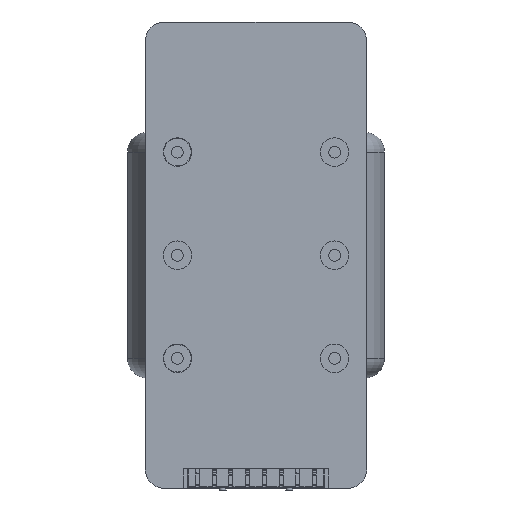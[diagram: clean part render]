
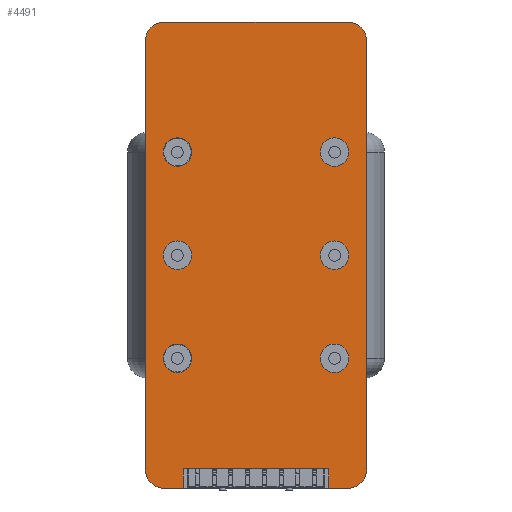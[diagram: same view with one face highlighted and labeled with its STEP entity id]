
A CAD part, front view. The second image highlights one B-rep face of the part: STEP entity #4491.
In plain terms, the highlighted planar face has unit normal (0, -1, 0) by its records, which use the part's own axes.
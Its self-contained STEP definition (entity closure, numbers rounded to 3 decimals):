
#4491=ADVANCED_FACE('',(#9636,#9638,#9640,#9642,#9644,#9646,#9648),#9650,.T.);
#9636=FACE_BOUND('',#9637,.T.);
#9637=EDGE_LOOP('',(#14314,#14315,#14316,#14317,#14318,#14319,#14320,#14321,#14322,
#14323,#14324,#14325));
#9638=FACE_BOUND('',#9639,.T.);
#9639=EDGE_LOOP('',(#14326));
#9640=FACE_BOUND('',#9641,.T.);
#9641=EDGE_LOOP('',(#14327));
#9642=FACE_BOUND('',#9643,.T.);
#9643=EDGE_LOOP('',(#14328));
#9644=FACE_BOUND('',#9645,.T.);
#9645=EDGE_LOOP('',(#14329));
#9646=FACE_BOUND('',#9647,.T.);
#9647=EDGE_LOOP('',(#14330));
#9648=FACE_BOUND('',#9649,.T.);
#9649=EDGE_LOOP('',(#14331));
#9650=PLANE('',#9651);
#9651=AXIS2_PLACEMENT_3D('',#9652,#9653,#9654);
#9652=CARTESIAN_POINT('',(-74.,0.,0.));
#9653=DIRECTION('',(0.,-1.,0.));
#9654=DIRECTION('',(1.,0.,0.));
#14314=ORIENTED_EDGE('',*,*,#16505,.F.);
#14315=ORIENTED_EDGE('',*,*,#16474,.T.);
#14316=ORIENTED_EDGE('',*,*,#16506,.T.);
#14317=ORIENTED_EDGE('',*,*,#16507,.T.);
#14318=ORIENTED_EDGE('',*,*,#16508,.T.);
#14319=ORIENTED_EDGE('',*,*,#16470,.F.);
#14320=ORIENTED_EDGE('',*,*,#16504,.F.);
#14321=ORIENTED_EDGE('',*,*,#16509,.F.);
#14322=ORIENTED_EDGE('',*,*,#16510,.F.);
#14323=ORIENTED_EDGE('',*,*,#16511,.T.);
#14324=ORIENTED_EDGE('',*,*,#16512,.F.);
#14325=ORIENTED_EDGE('',*,*,#16513,.T.);
#14326=ORIENTED_EDGE('',*,*,#16514,.T.);
#14327=ORIENTED_EDGE('',*,*,#16515,.T.);
#14328=ORIENTED_EDGE('',*,*,#16516,.T.);
#14329=ORIENTED_EDGE('',*,*,#16517,.T.);
#14330=ORIENTED_EDGE('',*,*,#16518,.T.);
#14331=ORIENTED_EDGE('',*,*,#16519,.T.);
#16470=EDGE_CURVE('',#18500,#18502,#18503,.T.);
#16474=EDGE_CURVE('',#18510,#18508,#18511,.T.);
#16504=EDGE_CURVE('',#18556,#18500,#18558,.F.);
#16505=EDGE_CURVE('',#18510,#18559,#18560,.F.);
#16506=EDGE_CURVE('',#18508,#18561,#18562,.F.);
#16507=EDGE_CURVE('',#18561,#18563,#18564,.F.);
#16508=EDGE_CURVE('',#18563,#18502,#18565,.T.);
#16509=EDGE_CURVE('',#18566,#18556,#18567,.T.);
#16510=EDGE_CURVE('',#18568,#18566,#18569,.F.);
#16511=EDGE_CURVE('',#18568,#18570,#18571,.T.);
#16512=EDGE_CURVE('',#18572,#18570,#18573,.F.);
#16513=EDGE_CURVE('',#18572,#18559,#18574,.T.);
#16514=EDGE_CURVE('',#18575,#18575,#18576,.T.);
#16515=EDGE_CURVE('',#18577,#18577,#18578,.T.);
#16516=EDGE_CURVE('',#18579,#18579,#18580,.T.);
#16517=EDGE_CURVE('',#18581,#18581,#18582,.T.);
#16518=EDGE_CURVE('',#18583,#18583,#18584,.T.);
#16519=EDGE_CURVE('',#18585,#18585,#18586,.T.);
#18500=VERTEX_POINT('',#23082);
#18502=VERTEX_POINT('',#23086);
#18503=LINE('',#23087,#23088);
#18508=VERTEX_POINT('',#23098);
#18510=VERTEX_POINT('',#23102);
#18511=LINE('',#23103,#23104);
#18556=VERTEX_POINT('',#23223);
#18558=CIRCLE('',#23227,20.);
#18559=VERTEX_POINT('',#23231);
#18560=CIRCLE('',#23232,20.);
#18561=VERTEX_POINT('',#23236);
#18562=LINE('',#23237,#23238);
#18563=VERTEX_POINT('',#23240);
#18564=LINE('',#23241,#23242);
#18565=LINE('',#23244,#23245);
#18566=VERTEX_POINT('',#23247);
#18567=LINE('',#23248,#23249);
#18568=VERTEX_POINT('',#23251);
#18569=CIRCLE('',#23252,20.);
#18570=VERTEX_POINT('',#23256);
#18571=LINE('',#23257,#23258);
#18572=VERTEX_POINT('',#23260);
#18573=CIRCLE('',#23261,20.);
#18574=LINE('',#23265,#23266);
#18575=VERTEX_POINT('',#23268);
#18576=CIRCLE('',#23269,14.5);
#18577=VERTEX_POINT('',#23273);
#18578=CIRCLE('',#23274,14.5);
#18579=VERTEX_POINT('',#23278);
#18580=CIRCLE('',#23279,14.5);
#18581=VERTEX_POINT('',#23283);
#18582=CIRCLE('',#23284,14.5);
#18583=VERTEX_POINT('',#23288);
#18584=CIRCLE('',#23289,14.5);
#18585=VERTEX_POINT('',#23293);
#18586=CIRCLE('',#23294,14.5);
#23082=CARTESIAN_POINT('',(92.916,0.,-237.5));
#23086=CARTESIAN_POINT('',(74.,0.,-237.5));
#23087=CARTESIAN_POINT('',(92.916,0.,-237.5));
#23088=VECTOR('',#23089,1.);
#23089=DIRECTION('',(-1.,0.,0.));
#23098=CARTESIAN_POINT('',(-74.,0.,-237.5));
#23102=CARTESIAN_POINT('',(-92.916,0.,-237.5));
#23103=CARTESIAN_POINT('',(-92.916,0.,-237.5));
#23104=VECTOR('',#23105,1.);
#23105=DIRECTION('',(1.,0.,0.));
#23223=CARTESIAN_POINT('',(112.916,0.,-217.5));
#23227=AXIS2_PLACEMENT_3D('',#23228,#23229,#23230);
#23228=CARTESIAN_POINT('',(92.916,0.,-217.5));
#23229=DIRECTION('',(0.,-1.,0.));
#23230=DIRECTION('',(0.,0.,-1.));
#23231=CARTESIAN_POINT('',(-112.916,0.,-217.5));
#23232=AXIS2_PLACEMENT_3D('',#23233,#23234,#23235);
#23233=CARTESIAN_POINT('',(-92.916,0.,-217.5));
#23234=DIRECTION('',(0.,-1.,0.));
#23235=DIRECTION('',(-1.,0.,0.));
#23236=CARTESIAN_POINT('',(-74.,0.,-217.5));
#23237=CARTESIAN_POINT('',(-74.,0.,-217.5));
#23238=VECTOR('',#23239,1.);
#23239=DIRECTION('',(0.,0.,-1.));
#23240=CARTESIAN_POINT('',(74.,0.,-217.5));
#23241=CARTESIAN_POINT('',(74.,0.,-217.5));
#23242=VECTOR('',#23243,1.);
#23243=DIRECTION('',(-1.,0.,0.));
#23244=CARTESIAN_POINT('',(74.,0.,-217.5));
#23245=VECTOR('',#23246,1.);
#23246=DIRECTION('',(0.,0.,-1.));
#23247=CARTESIAN_POINT('',(112.916,0.,217.5));
#23248=CARTESIAN_POINT('',(112.916,0.,217.5));
#23249=VECTOR('',#23250,1.);
#23250=DIRECTION('',(0.,0.,-1.));
#23251=CARTESIAN_POINT('',(92.916,0.,237.5));
#23252=AXIS2_PLACEMENT_3D('',#23253,#23254,#23255);
#23253=CARTESIAN_POINT('',(92.916,0.,217.5));
#23254=DIRECTION('',(-0.,-1.,0.));
#23255=DIRECTION('',(1.,0.,0.));
#23256=CARTESIAN_POINT('',(-92.916,0.,237.5));
#23257=CARTESIAN_POINT('',(92.916,0.,237.5));
#23258=VECTOR('',#23259,1.);
#23259=DIRECTION('',(-1.,0.,0.));
#23260=CARTESIAN_POINT('',(-112.916,0.,217.5));
#23261=AXIS2_PLACEMENT_3D('',#23262,#23263,#23264);
#23262=CARTESIAN_POINT('',(-92.916,0.,217.5));
#23263=DIRECTION('',(0.,-1.,0.));
#23264=DIRECTION('',(0.,0.,1.));
#23265=CARTESIAN_POINT('',(-112.916,0.,217.5));
#23266=VECTOR('',#23267,1.);
#23267=DIRECTION('',(0.,0.,-1.));
#23268=CARTESIAN_POINT('',(-65.5,0.,0.));
#23269=AXIS2_PLACEMENT_3D('',#23270,#23271,#23272);
#23270=CARTESIAN_POINT('',(-80.,0.,0.));
#23271=DIRECTION('',(-0.,1.,-0.));
#23272=DIRECTION('',(1.,0.,0.));
#23273=CARTESIAN_POINT('',(-65.5,0.,-105.));
#23274=AXIS2_PLACEMENT_3D('',#23275,#23276,#23277);
#23275=CARTESIAN_POINT('',(-80.,0.,-105.));
#23276=DIRECTION('',(-0.,1.,-0.));
#23277=DIRECTION('',(1.,0.,0.));
#23278=CARTESIAN_POINT('',(-65.5,0.,105.));
#23279=AXIS2_PLACEMENT_3D('',#23280,#23281,#23282);
#23280=CARTESIAN_POINT('',(-80.,0.,105.));
#23281=DIRECTION('',(-0.,1.,-0.));
#23282=DIRECTION('',(1.,0.,0.));
#23283=CARTESIAN_POINT('',(65.5,0.,0.));
#23284=AXIS2_PLACEMENT_3D('',#23285,#23286,#23287);
#23285=CARTESIAN_POINT('',(80.,0.,0.));
#23286=DIRECTION('',(-0.,1.,-0.));
#23287=DIRECTION('',(-1.,-0.,0.));
#23288=CARTESIAN_POINT('',(65.5,0.,-105.));
#23289=AXIS2_PLACEMENT_3D('',#23290,#23291,#23292);
#23290=CARTESIAN_POINT('',(80.,0.,-105.));
#23291=DIRECTION('',(-0.,1.,-0.));
#23292=DIRECTION('',(-1.,0.,0.));
#23293=CARTESIAN_POINT('',(94.5,0.,105.));
#23294=AXIS2_PLACEMENT_3D('',#23295,#23296,#23297);
#23295=CARTESIAN_POINT('',(80.,0.,105.));
#23296=DIRECTION('',(-0.,1.,-0.));
#23297=DIRECTION('',(1.,0.,0.));
